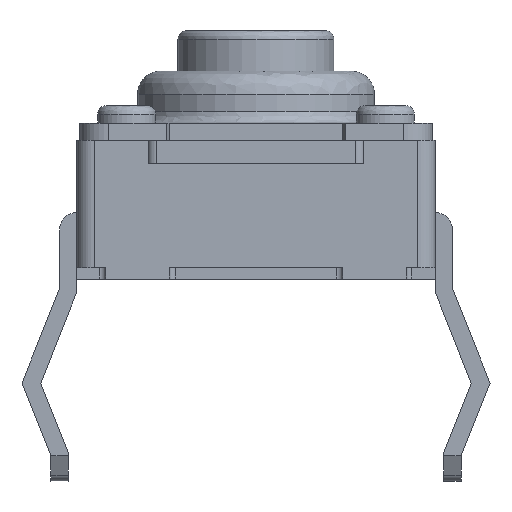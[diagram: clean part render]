
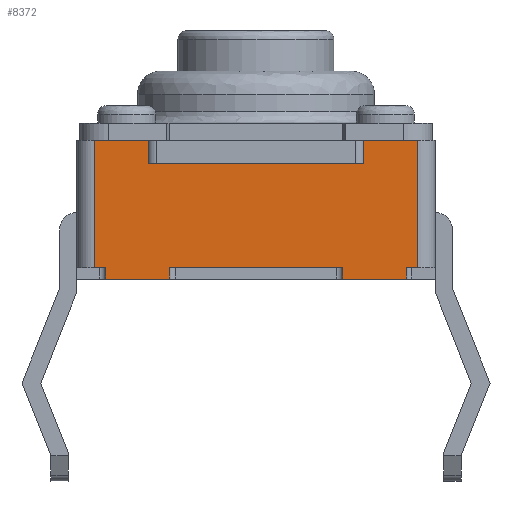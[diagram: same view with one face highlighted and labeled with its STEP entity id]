
A CAD part, front view. The second image highlights one B-rep face of the part: STEP entity #8372.
In plain terms, the highlighted planar face has unit normal (0, -1, 0).
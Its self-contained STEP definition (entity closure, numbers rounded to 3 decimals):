
#546 = VERTEX_POINT ( 'NONE', #1846 ) ;
#572 = VERTEX_POINT ( 'NONE', #1952 ) ;
#589 = VERTEX_POINT ( 'NONE', #1975 ) ;
#605 = EDGE_CURVE ( 'NONE', #608, #589, #1995, .T. ) ;
#608 = VERTEX_POINT ( 'NONE', #1987 ) ;
#705 = EDGE_CURVE ( 'NONE', #572, #546, #9649, .T. ) ;
#731 = EDGE_CURVE ( 'NONE', #765, #546, #5809, .T. ) ;
#765 = VERTEX_POINT ( 'NONE', #5838 ) ;
#1559 = VERTEX_POINT ( 'NONE', #2576 ) ;
#1564 = EDGE_CURVE ( 'NONE', #4462, #765, #2610, .T. ) ;
#1590 = EDGE_CURVE ( 'NONE', #608, #1559, #2681, .T. ) ;
#1846 = CARTESIAN_POINT ( 'NONE',  ( 2.6, -3.1, 0.2 ) ) ;
#1952 = CARTESIAN_POINT ( 'NONE',  ( 2.8, -3.1, 0.2 ) ) ;
#1975 = CARTESIAN_POINT ( 'NONE',  ( -2.8, -3.1, 0.2 ) ) ;
#1987 = CARTESIAN_POINT ( 'NONE',  ( -2.6, -3.1, 0.2 ) ) ;
#1990 = DIRECTION ( 'NONE',  ( -1., 0., 0. ) ) ;
#1991 = VECTOR ( 'NONE', #1990, 1000. ) ;
#1994 = CARTESIAN_POINT ( 'NONE',  ( -2.6, -3.1, 0.2 ) ) ;
#1995 = LINE ( 'NONE', #1994, #1991 ) ;
#2576 = CARTESIAN_POINT ( 'NONE',  ( -2.6, -3.1, 0. ) ) ;
#2605 = VECTOR ( 'NONE', #2608, 1000. ) ;
#2608 = DIRECTION ( 'NONE',  ( 1., 0., 0. ) ) ;
#2609 = CARTESIAN_POINT ( 'NONE',  ( -3.1, -3.1, 0. ) ) ;
#2610 = LINE ( 'NONE', #2609, #2605 ) ;
#2673 = DIRECTION ( 'NONE',  ( 0., 0., -1. ) ) ;
#2674 = VECTOR ( 'NONE', #2673, 1000. ) ;
#2675 = CARTESIAN_POINT ( 'NONE',  ( -2.6, -3.1, 0.2 ) ) ;
#2681 = LINE ( 'NONE', #2675, #2674 ) ;
#4462 = VERTEX_POINT ( 'NONE', #6223 ) ;
#4530 = EDGE_CURVE ( 'NONE', #1559, #4532, #6351, .T. ) ;
#4532 = VERTEX_POINT ( 'NONE', #6352 ) ;
#5805 = DIRECTION ( 'NONE',  ( 0., 0., 1. ) ) ;
#5806 = VECTOR ( 'NONE', #5805, 1000. ) ;
#5807 = CARTESIAN_POINT ( 'NONE',  ( 2.6, -3.1, 0.2 ) ) ;
#5809 = LINE ( 'NONE', #5807, #5806 ) ;
#5838 = CARTESIAN_POINT ( 'NONE',  ( 2.6, -3.1, 0. ) ) ;
#6223 = CARTESIAN_POINT ( 'NONE',  ( 1.5, -3.1, 0. ) ) ;
#6348 = DIRECTION ( 'NONE',  ( 1., 0., 0. ) ) ;
#6349 = VECTOR ( 'NONE', #6348, 1000. ) ;
#6350 = CARTESIAN_POINT ( 'NONE',  ( -3.1, -3.1, 0. ) ) ;
#6351 = LINE ( 'NONE', #6350, #6349 ) ;
#6352 = CARTESIAN_POINT ( 'NONE',  ( -1.5, -3.1, 0. ) ) ;
#7115 = CARTESIAN_POINT ( 'NONE',  ( 1.5, -3.1, 0.2 ) ) ;
#7137 = CARTESIAN_POINT ( 'NONE',  ( -1.5, -3.1, 0.2 ) ) ;
#7219 = CARTESIAN_POINT ( 'NONE',  ( 1.5, -3.1, 0.2 ) ) ;
#7238 = DIRECTION ( 'NONE',  ( 0., 0., 1. ) ) ;
#7239 = VECTOR ( 'NONE', #7238, 1000. ) ;
#7240 = CARTESIAN_POINT ( 'NONE',  ( -1.5, -3.1, 0.2 ) ) ;
#7241 = LINE ( 'NONE', #7240, #7239 ) ;
#7244 = DIRECTION ( 'NONE',  ( 0., 0., -1. ) ) ;
#7245 = VECTOR ( 'NONE', #7244, 1000. ) ;
#7250 = LINE ( 'NONE', #7219, #7245 ) ;
#7263 = VECTOR ( 'NONE', #7303, 1000. ) ;
#7269 = PLANE ( 'NONE',  #7285 ) ;
#7270 = LINE ( 'NONE', #7274, #7263 ) ;
#7274 = CARTESIAN_POINT ( 'NONE',  ( -3.1, -3.1, 0.2 ) ) ;
#7278 = FACE_OUTER_BOUND ( 'NONE', #8424, .T. ) ;
#7285 = AXIS2_PLACEMENT_3D ( 'NONE', #7306, #7305, #7304 ) ;
#7303 = DIRECTION ( 'NONE',  ( -1., 0., 0. ) ) ;
#7304 = DIRECTION ( 'NONE',  ( 0., 0., 1. ) ) ;
#7305 = DIRECTION ( 'NONE',  ( 0., 1., 0. ) ) ;
#7306 = CARTESIAN_POINT ( 'NONE',  ( -3.1, -3.1, 2.4 ) ) ;
#7314 = CARTESIAN_POINT ( 'NONE',  ( -2.8, -3.1, 2.4 ) ) ;
#7326 = DIRECTION ( 'NONE',  ( 0., 0., -1. ) ) ;
#7327 = VECTOR ( 'NONE', #7326, 1000. ) ;
#7336 = CARTESIAN_POINT ( 'NONE',  ( 2.8, -3.1, 2.4 ) ) ;
#7339 = LINE ( 'NONE', #7336, #7327 ) ;
#7341 = CARTESIAN_POINT ( 'NONE',  ( 2.8, -3.1, 2.4 ) ) ;
#7384 = LINE ( 'NONE', #7415, #7414 ) ;
#7401 = CARTESIAN_POINT ( 'NONE',  ( 1.86, -3.1, 2. ) ) ;
#7413 = DIRECTION ( 'NONE',  ( 0., 0., 1. ) ) ;
#7414 = VECTOR ( 'NONE', #7413, 1000. ) ;
#7415 = CARTESIAN_POINT ( 'NONE',  ( -2.8, -3.1, 2.4 ) ) ;
#7480 = CARTESIAN_POINT ( 'NONE',  ( -1.86, -3.1, 2. ) ) ;
#7516 = CARTESIAN_POINT ( 'NONE',  ( 1.86, -3.1, 2.4 ) ) ;
#8325 = VERTEX_POINT ( 'NONE', #7115 ) ;
#8337 = VERTEX_POINT ( 'NONE', #7137 ) ;
#8359 = EDGE_CURVE ( 'NONE', #8325, #4462, #7250, .T. ) ;
#8362 = EDGE_CURVE ( 'NONE', #4532, #8337, #7241, .T. ) ;
#8372 = ADVANCED_FACE ( 'NONE', ( #7278 ), #7269, .F. ) ;
#8374 = EDGE_CURVE ( 'NONE', #8325, #8337, #7270, .T. ) ;
#8390 = VERTEX_POINT ( 'NONE', #7341 ) ;
#8396 = ORIENTED_EDGE ( 'NONE', *, *, #8362, .T. ) ;
#8403 = ORIENTED_EDGE ( 'NONE', *, *, #8374, .F. ) ;
#8407 = ORIENTED_EDGE ( 'NONE', *, *, #8359, .T. ) ;
#8408 = ORIENTED_EDGE ( 'NONE', *, *, #8502, .T. ) ;
#8410 = ORIENTED_EDGE ( 'NONE', *, *, #1564, .T. ) ;
#8411 = EDGE_CURVE ( 'NONE', #8390, #572, #7339, .T. ) ;
#8418 = VERTEX_POINT ( 'NONE', #7314 ) ;
#8424 = EDGE_LOOP ( 'NONE', ( #8396, #8403, #8407, #8410, #8454, #8484, #8479, #8452, #8490, #8408, #8453, #8467, #8457, #8438, #8466, #8473 ) ) ;
#8434 = EDGE_CURVE ( 'NONE', #589, #8418, #7384, .T. ) ;
#8437 = VERTEX_POINT ( 'NONE', #7401 ) ;
#8438 = ORIENTED_EDGE ( 'NONE', *, *, #605, .F. ) ;
#8451 = VERTEX_POINT ( 'NONE', #7480 ) ;
#8452 = ORIENTED_EDGE ( 'NONE', *, *, #8504, .F. ) ;
#8453 = ORIENTED_EDGE ( 'NONE', *, *, #8501, .F. ) ;
#8454 = ORIENTED_EDGE ( 'NONE', *, *, #731, .T. ) ;
#8456 = VERTEX_POINT ( 'NONE', #7516 ) ;
#8457 = ORIENTED_EDGE ( 'NONE', *, *, #8434, .F. ) ;
#8466 = ORIENTED_EDGE ( 'NONE', *, *, #1590, .T. ) ;
#8467 = ORIENTED_EDGE ( 'NONE', *, *, #8494, .F. ) ;
#8473 = ORIENTED_EDGE ( 'NONE', *, *, #4530, .T. ) ;
#8479 = ORIENTED_EDGE ( 'NONE', *, *, #8411, .F. ) ;
#8484 = ORIENTED_EDGE ( 'NONE', *, *, #705, .F. ) ;
#8485 = VERTEX_POINT ( 'NONE', #9128 ) ;
#8490 = ORIENTED_EDGE ( 'NONE', *, *, #8505, .F. ) ;
#8494 = EDGE_CURVE ( 'NONE', #8418, #8485, #9154, .T. ) ;
#8501 = EDGE_CURVE ( 'NONE', #8485, #8451, #9177, .T. ) ;
#8502 = EDGE_CURVE ( 'NONE', #8437, #8451, #9196, .T. ) ;
#8504 = EDGE_CURVE ( 'NONE', #8456, #8390, #9233, .T. ) ;
#8505 = EDGE_CURVE ( 'NONE', #8437, #8456, #9224, .T. ) ;
#9128 = CARTESIAN_POINT ( 'NONE',  ( -1.86, -3.1, 2.4 ) ) ;
#9151 = DIRECTION ( 'NONE',  ( 1., 0., 0. ) ) ;
#9152 = VECTOR ( 'NONE', #9151, 1000. ) ;
#9153 = CARTESIAN_POINT ( 'NONE',  ( -3.1, -3.1, 2.4 ) ) ;
#9154 = LINE ( 'NONE', #9153, #9152 ) ;
#9176 = CARTESIAN_POINT ( 'NONE',  ( -1.86, -3.1, 2.4 ) ) ;
#9177 = LINE ( 'NONE', #9176, #9199 ) ;
#9192 = DIRECTION ( 'NONE',  ( -1., 0., 0. ) ) ;
#9193 = VECTOR ( 'NONE', #9192, 1000. ) ;
#9194 = CARTESIAN_POINT ( 'NONE',  ( -4.074, -3.1, 2. ) ) ;
#9196 = LINE ( 'NONE', #9194, #9193 ) ;
#9198 = DIRECTION ( 'NONE',  ( 0., 0., -1. ) ) ;
#9199 = VECTOR ( 'NONE', #9198, 1000. ) ;
#9219 = DIRECTION ( 'NONE',  ( 0., 0., 1. ) ) ;
#9220 = VECTOR ( 'NONE', #9219, 1000. ) ;
#9221 = CARTESIAN_POINT ( 'NONE',  ( 1.86, -3.1, 2.4 ) ) ;
#9224 = LINE ( 'NONE', #9221, #9220 ) ;
#9225 = VECTOR ( 'NONE', #9231, 1000. ) ;
#9231 = DIRECTION ( 'NONE',  ( 1., 0., 0. ) ) ;
#9232 = CARTESIAN_POINT ( 'NONE',  ( -3.1, -3.1, 2.4 ) ) ;
#9233 = LINE ( 'NONE', #9232, #9225 ) ;
#9646 = DIRECTION ( 'NONE',  ( -1., 0., 0. ) ) ;
#9647 = VECTOR ( 'NONE', #9646, 1000. ) ;
#9648 = CARTESIAN_POINT ( 'NONE',  ( 2.6, -3.1, 0.2 ) ) ;
#9649 = LINE ( 'NONE', #9648, #9647 ) ;
